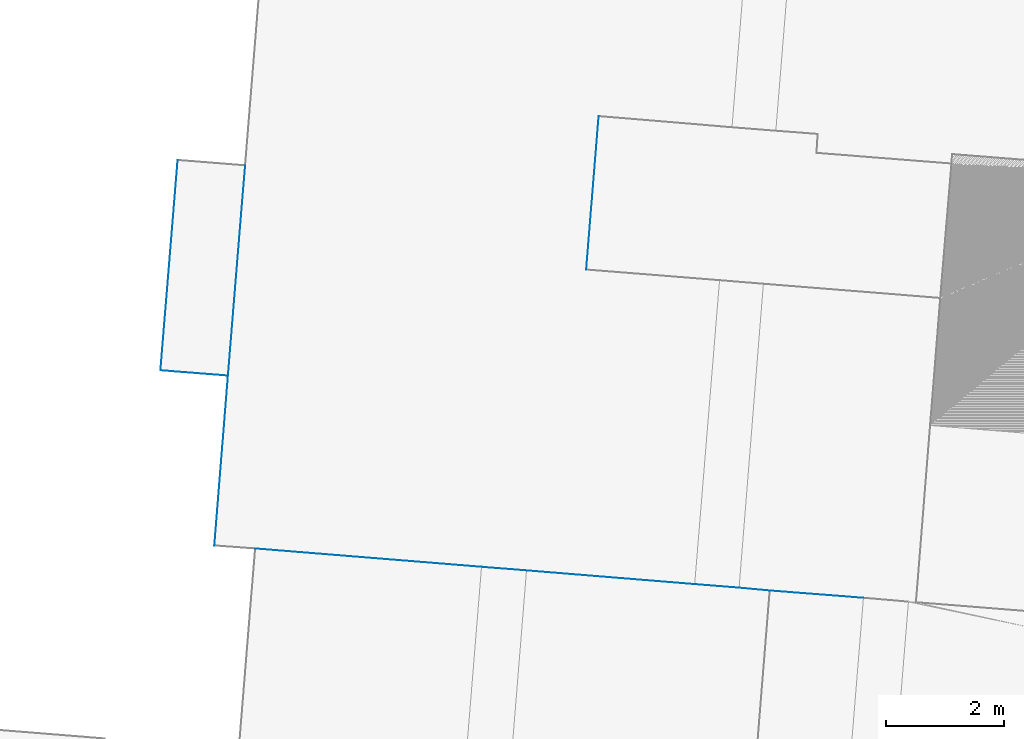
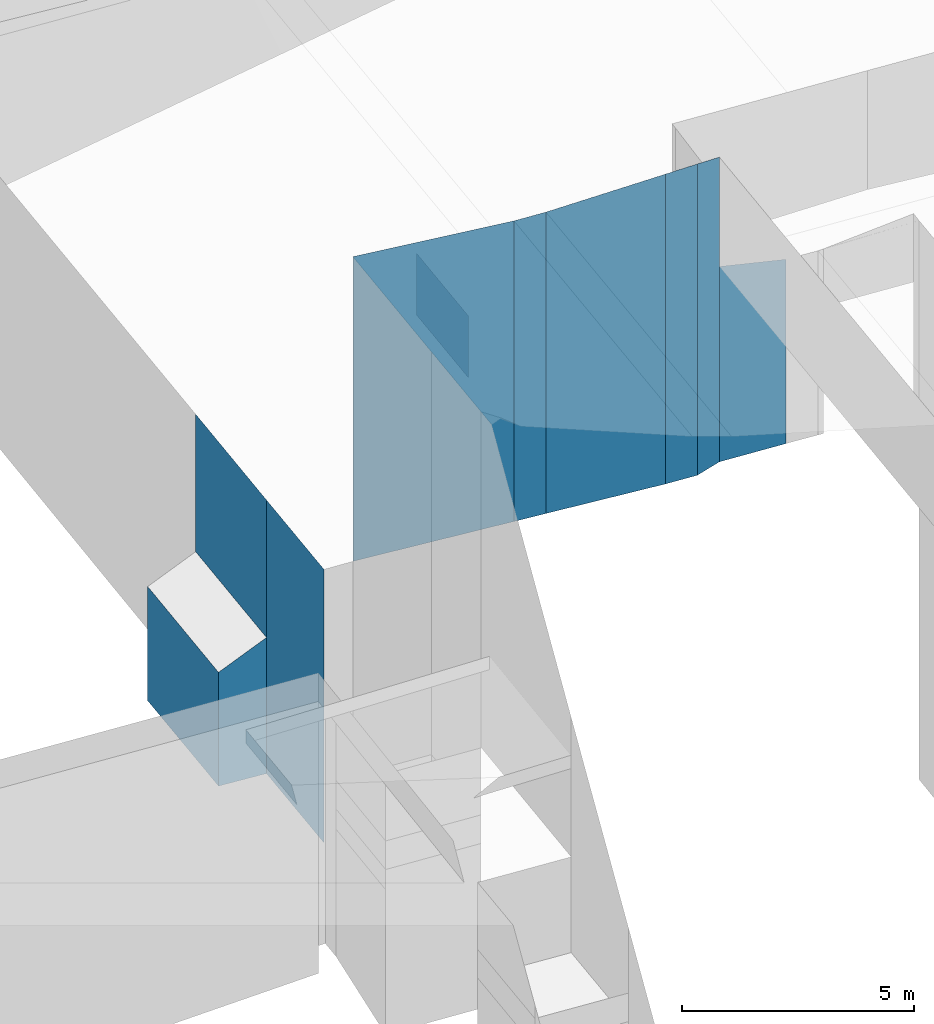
# Not in any storey, part 78 of 136: 11 walls.
"""IFC4 building model written with IfcOpenShell, lengths in metres."""

from ifc_helpers import new_model, entity, si_unit, converted_unit, origin, place, context, subcontext, project, spatial, face_set, surface_model, element, save


model = new_model("IFC4")

# Units and contexts
model_context = context("Model", 3, precision=1e-05, world=origin())
body_context = subcontext(model_context, "Body", "Model", "MODEL_VIEW")
ifc_project = project(units=[converted_unit("PLANEANGLEUNIT", "DEGREE", entity("IfcRatioMeasure", 0.0174532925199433), si_unit("PLANEANGLEUNIT", "RADIAN"), dimensions=[0, 0, 0, 0, 0, 0, 0]), si_unit("AREAUNIT", "SQUARE_METRE"), si_unit("LENGTHUNIT", "METRE")], contexts=[model_context])

# Site, building
site_placement = place(None, origin())
site = spatial("IfcSite", under=ifc_project, at=site_placement, Name="_site")
building_placement = place(site_placement, origin())
building = spatial("IfcBuilding", under=site, at=building_placement, Name="_building")

# Walls
wall_1_placement = place(building_placement, origin())
element("IfcWall", 1, at=wall_1_placement, inside=building, Name="Wall", PredefinedType="NOTDEFINED", context=body_context, shape_type="SurfaceModel", body=[
    surface_model("IfcFaceBasedSurfaceModel", [(225.27, 106.01, 53.35), (226.85, 105.887, 53.06), (226.85, 105.887, 48.22), (225.27, 106.01, 48.22)], [face_set([[[0, 1, 2, 3]]])]),
])
wall_2_placement = place(building_placement, origin())
element("IfcWall", 2, at=wall_2_placement, inside=building, Name="Wall", PredefinedType="NOTDEFINED", context=body_context, shape_type="SurfaceModel", body=[
    surface_model("IfcFaceBasedSurfaceModel", [(224.75, 106.058, 56.193), (225.27, 106.01, 56.22), (225.27, 106.01, 48.22), (224.75, 106.058, 48.02)], [face_set([[[0, 1, 2, 3]]])]),
])
wall_3_placement = place(building_placement, origin())
element("IfcWall", 3, at=wall_3_placement, inside=building, Name="Wall", PredefinedType="NOTDEFINED", context=body_context, shape_type="SurfaceModel", body=[
    surface_model("IfcFaceBasedSurfaceModel", [(224.0, 106.118, 56.155), (224.75, 106.058, 56.193), (224.75, 106.058, 48.02), (224.0, 106.118, 48.02)], [face_set([[[0, 1, 2, 3]]])]),
])
wall_4_placement = place(building_placement, origin())
element("IfcWall", 4, at=wall_4_placement, inside=building, Name="Wall", PredefinedType="NOTDEFINED", context=body_context, shape_type="SurfaceModel", body=[
    surface_model("IfcFaceBasedSurfaceModel", [(221.16, 106.35, 56.01), (224.0, 106.118, 56.155), (224.0, 106.118, 48.02), (221.16, 106.35, 48.097)], [face_set([[[0, 1, 2, 3]]])]),
])
wall_5_placement = place(building_placement, origin())
element("IfcWall", 5, at=wall_5_placement, inside=building, Name="Wall", PredefinedType="NOTDEFINED", context=body_context, shape_type="SurfaceModel", body=[
    surface_model("IfcFaceBasedSurfaceModel", [(215.89, 106.771, 48.22), (216.12, 109.64, 48.22), (216.12, 109.64, 41.038), (215.89, 106.771, 41.04)], [face_set([[[0, 1, 2, 3]]])]),
])
wall_6_placement = place(building_placement, origin())
element("IfcWall", 6, at=wall_6_placement, inside=building, Name="Wall", PredefinedType="NOTDEFINED", context=body_context, shape_type="SurfaceModel", body=[
    surface_model("IfcFaceBasedSurfaceModel", [(222.17, 111.43, 49.85), (222.38, 114.021, 49.85), (222.38, 114.021, 48.22), (222.17, 111.43, 48.22)], [face_set([[[0, 1, 2, 3]]])]),
])
wall_7_placement = place(building_placement, origin())
element("IfcWall", 7, at=wall_7_placement, inside=building, Name="Wall", PredefinedType="NOTDEFINED", context=body_context, shape_type="SurfaceModel", body=[
    surface_model("IfcFaceBasedSurfaceModel", [(216.12, 109.64, 44.61), (214.98, 109.73, 44.04), (214.98, 109.73, 41.054), (216.12, 109.64, 41.038)], [face_set([[[0, 1, 2, 3]]])]),
])
wall_8_placement = place(building_placement, origin())
element("IfcWall", 8, at=wall_8_placement, inside=building, Name="Wall", PredefinedType="NOTDEFINED", context=body_context, shape_type="SurfaceModel", body=[
    surface_model("IfcFaceBasedSurfaceModel", [(214.98, 109.73, 44.04), (215.27, 113.28, 44.04), (215.27, 113.28, 41.044), (214.98, 109.73, 41.054)], [face_set([[[0, 1, 2, 3]]])]),
])
wall_9_placement = place(building_placement, origin())
element("IfcWall", 9, at=wall_9_placement, inside=building, Name="Wall", PredefinedType="NOTDEFINED", context=body_context, shape_type="SurfaceModel", body=[
    surface_model("IfcFaceBasedSurfaceModel", [(216.12, 109.64, 48.22), (216.41, 113.19, 48.22), (216.41, 113.19, 44.61), (216.12, 109.64, 44.61)], [face_set([[[0, 1, 2, 3]]])]),
])
wall_10_placement = place(building_placement, origin())
element("IfcWall", 10, at=wall_10_placement, inside=building, Name="Wall", PredefinedType="NOTDEFINED", context=body_context, shape_type="SurfaceModel", body=[
    surface_model("IfcFaceBasedSurfaceModel", [(220.4, 106.41, 56.01), (221.16, 106.35, 56.01), (221.16, 106.35, 48.097), (220.4, 106.41, 48.117)], [face_set([[[0, 1, 2, 3]]])]),
])
wall_11_placement = place(building_placement, origin())
element("IfcWall", 11, at=wall_11_placement, inside=building, Name="Wall", PredefinedType="NOTDEFINED", context=body_context, shape_type="SurfaceModel", body=[
    surface_model("IfcFaceBasedSurfaceModel", [(216.58, 106.72, 56.22), (220.4, 106.41, 56.01), (220.4, 106.41, 48.117), (216.58, 106.72, 48.22)], [face_set([[[0, 1, 2, 3]]])]),
])

save(model, "model.ifc")
